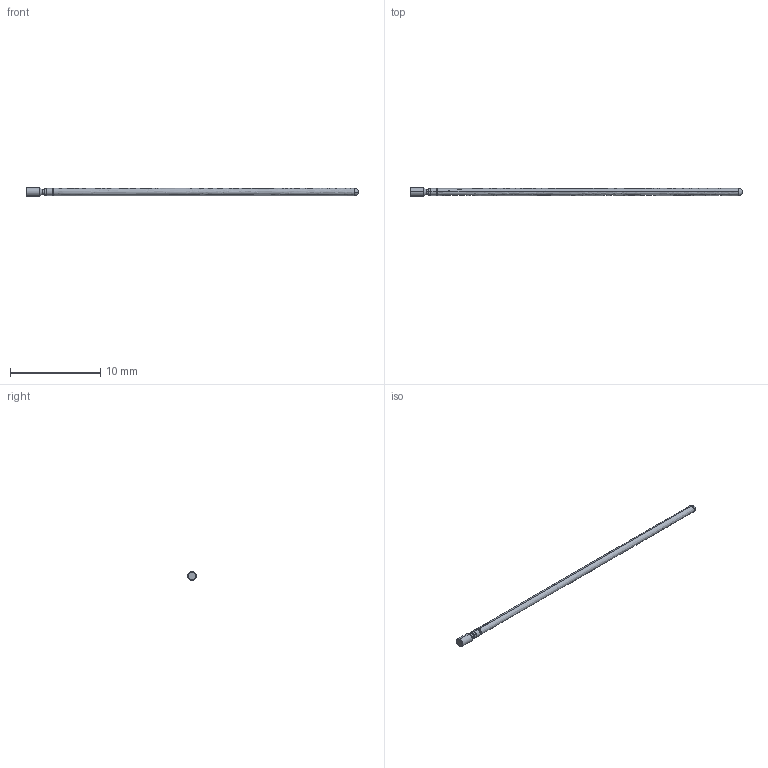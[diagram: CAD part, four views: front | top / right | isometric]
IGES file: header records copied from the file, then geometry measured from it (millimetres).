
Start section: SolidWorks IGES file using analytic representation for surfaces
Global section: file name: L:\probe solid model mockups\Solidworks models\POGO-72F Full.IGS; native system: SolidWorks 2006 by SolidWorks Corporation; preprocessor: SolidWorks 2006 by SolidWorks Corporation; author: Ksnyder; date: 071211.135541; units: inch
Bounding box: 36.83 x 0.97 x 0.97 mm (x, y, z)
Volume: 29 mm3; surface area: 175.6 mm2
Topology: 1 solids, 1 shells, 25 faces, 52 edges, 28 vertices
Faces by surface type: revolution 22, plane 3
